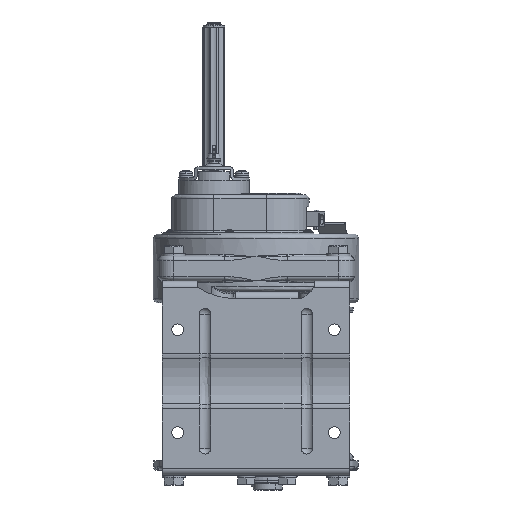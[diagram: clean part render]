
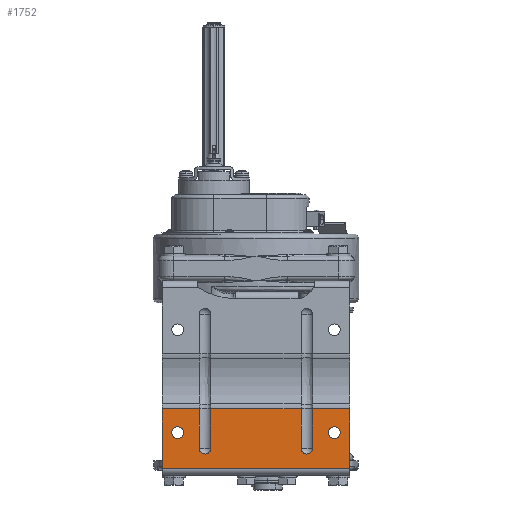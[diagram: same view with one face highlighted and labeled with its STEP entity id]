
A CAD part, front view. The second image highlights one B-rep face of the part: STEP entity #1752.
In plain terms, the highlighted planar face has unit normal (0, -1, 0).
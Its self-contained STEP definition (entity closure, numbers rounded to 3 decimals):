
#1752=ADVANCED_FACE('',(#19310,#19311,#19312),#19309,.T.);
#19309=PLANE('',#40148);
#19310=FACE_OUTER_BOUND('',#40149,.T.);
#19311=FACE_BOUND('',#40150,.T.);
#19312=FACE_BOUND('',#40151,.T.);
#40145=CARTESIAN_POINT('',(11.,-36.383,-223.2));
#40146=DIRECTION('',(0.,-1.,0.));
#40147=DIRECTION('',(0.,0.,1.));
#40148=AXIS2_PLACEMENT_3D('',#40145,#40146,#40147);
#40149=EDGE_LOOP('',(#59059,#59060,#59061,#59062,#59063,#59064,#59065,#59066,#59067,#59068,#59069,#59070));
#40150=EDGE_LOOP('',(#59071,#59072));
#40151=EDGE_LOOP('',(#59073,#59074));
#59059=ORIENTED_EDGE('',*,*,#68764,.T.);
#59060=ORIENTED_EDGE('',*,*,#68765,.F.);
#59061=ORIENTED_EDGE('',*,*,#68673,.T.);
#59062=ORIENTED_EDGE('',*,*,#68766,.T.);
#59063=ORIENTED_EDGE('',*,*,#68767,.T.);
#59064=ORIENTED_EDGE('',*,*,#68754,.F.);
#59065=ORIENTED_EDGE('',*,*,#68658,.F.);
#59066=ORIENTED_EDGE('',*,*,#68753,.T.);
#59067=ORIENTED_EDGE('',*,*,#68763,.T.);
#59068=ORIENTED_EDGE('',*,*,#68768,.F.);
#59069=ORIENTED_EDGE('',*,*,#68769,.F.);
#59070=ORIENTED_EDGE('',*,*,#68770,.T.);
#59071=ORIENTED_EDGE('',*,*,#68771,.F.);
#59072=ORIENTED_EDGE('',*,*,#68772,.F.);
#59073=ORIENTED_EDGE('',*,*,#68773,.F.);
#59074=ORIENTED_EDGE('',*,*,#68774,.F.);
#68658=EDGE_CURVE('',#101544,#101552,#101553,.T.);
#68673=EDGE_CURVE('',#101655,#101647,#101656,.T.);
#68753=EDGE_CURVE('',#101544,#101669,#102181,.T.);
#68754=EDGE_CURVE('',#101552,#101668,#102187,.T.);
#68763=EDGE_CURVE('',#101669,#102239,#102246,.T.);
#68764=EDGE_CURVE('',#102252,#101696,#102253,.T.);
#68765=EDGE_CURVE('',#101655,#101696,#102259,.T.);
#68766=EDGE_CURVE('',#101647,#101697,#102265,.T.);
#68767=EDGE_CURVE('',#101697,#101668,#102271,.T.);
#68768=EDGE_CURVE('',#102277,#102239,#102278,.T.);
#68769=EDGE_CURVE('',#102284,#102277,#102285,.T.);
#68770=EDGE_CURVE('',#102284,#102252,#102291,.T.);
#68771=EDGE_CURVE('',#102297,#102298,#102299,.T.);
#68772=EDGE_CURVE('',#102298,#102297,#102305,.T.);
#68773=EDGE_CURVE('',#102311,#102312,#102313,.T.);
#68774=EDGE_CURVE('',#102312,#102311,#102319,.T.);
#101544=VERTEX_POINT('',#135695);
#101552=VERTEX_POINT('',#135701);
#101553=CIRCLE('',#135705,6.);
#101647=VERTEX_POINT('',#135764);
#101655=VERTEX_POINT('',#135770);
#101656=CIRCLE('',#135774,6.);
#101668=VERTEX_POINT('',#135779);
#101669=VERTEX_POINT('',#135780);
#101696=VERTEX_POINT('',#135799);
#101697=VERTEX_POINT('',#135800);
#102181=LINE('',#136116,#136117);
#102187=LINE('',#136119,#136120);
#102239=VERTEX_POINT('',#136150);
#102246=LINE('',#136155,#136156);
#102252=VERTEX_POINT('',#136158);
#102253=LINE('',#136159,#136160);
#102259=LINE('',#136162,#136163);
#102265=LINE('',#136165,#136166);
#102271=LINE('',#136168,#136169);
#102277=VERTEX_POINT('',#136171);
#102278=LINE('',#136172,#136173);
#102284=VERTEX_POINT('',#136175);
#102285=LINE('',#136176,#136177);
#102291=LINE('',#136179,#136180);
#102297=VERTEX_POINT('',#136182);
#102298=VERTEX_POINT('',#136183);
#102299=CIRCLE('',#136187,6.);
#102305=CIRCLE('',#136191,6.);
#102311=VERTEX_POINT('',#136192);
#102312=VERTEX_POINT('',#136193);
#102313=CIRCLE('',#136197,6.);
#102319=CIRCLE('',#136201,6.);
#135695=CARTESIAN_POINT('',(-153.,-36.383,-196.302));
#135701=CARTESIAN_POINT('',(-141.,-36.383,-196.302));
#135702=CARTESIAN_POINT('',(-147.,-36.383,-196.302));
#135703=DIRECTION('',(0.,-1.,0.));
#135704=DIRECTION('',(1.,0.,0.));
#135705=AXIS2_PLACEMENT_3D('',#135702,#135703,#135704);
#135764=CARTESIAN_POINT('',(-49.,-36.383,-196.302));
#135770=CARTESIAN_POINT('',(-37.,-36.383,-196.302));
#135771=CARTESIAN_POINT('',(-43.,-36.383,-196.302));
#135772=DIRECTION('',(0.,1.,0.));
#135773=DIRECTION('',(1.,0.,0.));
#135774=AXIS2_PLACEMENT_3D('',#135771,#135772,#135773);
#135779=CARTESIAN_POINT('',(-141.,-36.383,-156.096));
#135780=CARTESIAN_POINT('',(-153.,-36.383,-156.096));
#135799=CARTESIAN_POINT('',(-37.,-36.383,-156.096));
#135800=CARTESIAN_POINT('',(-49.,-36.383,-156.096));
#136116=CARTESIAN_POINT('',(-153.,-36.383,-196.302));
#136117=VECTOR('',#136118,40.206);
#136118=DIRECTION('',(0.,0.,1.));
#136119=CARTESIAN_POINT('',(-141.,-36.383,-196.302));
#136120=VECTOR('',#136121,40.206);
#136121=DIRECTION('',(0.,0.,1.));
#136150=CARTESIAN_POINT('',(-191.,-36.383,-156.096));
#136155=CARTESIAN_POINT('',(-153.,-36.383,-156.096));
#136156=VECTOR('',#136157,38.);
#136157=DIRECTION('',(-1.,0.,0.));
#136158=CARTESIAN_POINT('',(1.,-36.383,-156.096));
#136159=CARTESIAN_POINT('',(1.,-36.383,-156.096));
#136160=VECTOR('',#136161,38.);
#136161=DIRECTION('',(-1.,0.,0.));
#136162=CARTESIAN_POINT('',(-37.,-36.383,-196.302));
#136163=VECTOR('',#136164,40.206);
#136164=DIRECTION('',(0.,0.,1.));
#136165=CARTESIAN_POINT('',(-49.,-36.383,-196.302));
#136166=VECTOR('',#136167,40.206);
#136167=DIRECTION('',(0.,0.,1.));
#136168=CARTESIAN_POINT('',(-49.,-36.383,-156.096));
#136169=VECTOR('',#136170,92.);
#136170=DIRECTION('',(-1.,0.,0.));
#136171=CARTESIAN_POINT('',(-191.,-36.383,-217.1));
#136172=CARTESIAN_POINT('',(-191.,-36.383,-217.1));
#136173=VECTOR('',#136174,61.004);
#136174=DIRECTION('',(0.,0.,1.));
#136175=CARTESIAN_POINT('',(1.,-36.383,-217.1));
#136176=CARTESIAN_POINT('',(1.,-36.383,-217.1));
#136177=VECTOR('',#136178,192.);
#136178=DIRECTION('',(-1.,0.,0.));
#136179=CARTESIAN_POINT('',(1.,-36.383,-217.1));
#136180=VECTOR('',#136181,61.004);
#136181=DIRECTION('',(0.,0.,1.));
#136182=CARTESIAN_POINT('',(-15.,-36.383,-186.4));
#136183=CARTESIAN_POINT('',(-15.,-36.383,-174.4));
#136184=CARTESIAN_POINT('',(-15.,-36.383,-180.4));
#136185=DIRECTION('',(0.,-1.,0.));
#136186=DIRECTION('',(0.,0.,1.));
#136187=AXIS2_PLACEMENT_3D('',#136184,#136185,#136186);
#136188=CARTESIAN_POINT('',(-15.,-36.383,-180.4));
#136189=DIRECTION('',(0.,-1.,0.));
#136190=DIRECTION('',(0.,0.,1.));
#136191=AXIS2_PLACEMENT_3D('',#136188,#136189,#136190);
#136192=CARTESIAN_POINT('',(-175.,-36.383,-186.4));
#136193=CARTESIAN_POINT('',(-175.,-36.383,-174.4));
#136194=CARTESIAN_POINT('',(-175.,-36.383,-180.4));
#136195=DIRECTION('',(0.,-1.,0.));
#136196=DIRECTION('',(0.,0.,1.));
#136197=AXIS2_PLACEMENT_3D('',#136194,#136195,#136196);
#136198=CARTESIAN_POINT('',(-175.,-36.383,-180.4));
#136199=DIRECTION('',(0.,-1.,0.));
#136200=DIRECTION('',(0.,0.,1.));
#136201=AXIS2_PLACEMENT_3D('',#136198,#136199,#136200);
